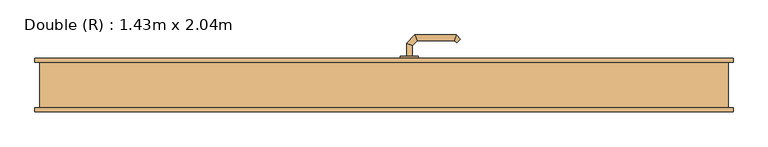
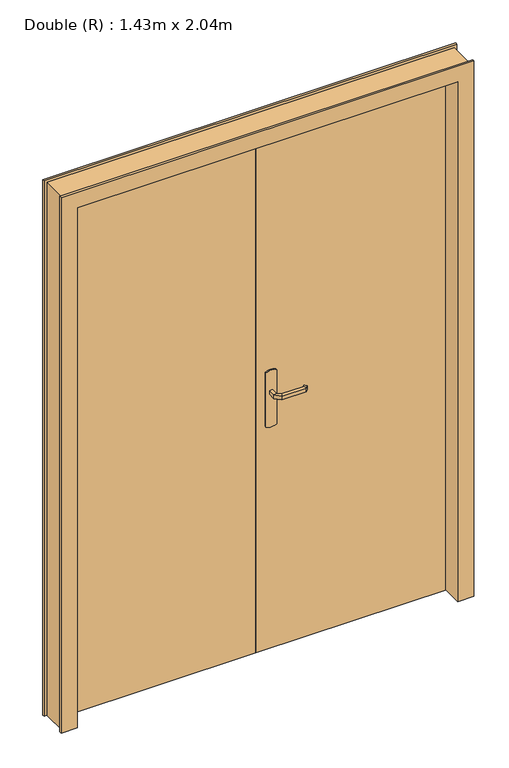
"""IFC4 building model written with IfcOpenShell, lengths in millimetres: door geometry, Double (R) : 1.43m x 2.04m."""

from ifc_helpers import new_model, si_unit, point, frame, frame_2d, origin, origin_with_axes, place, context, project, spatial, polyline, circle_curve, ellipse_curve, trimmed, segment, composite_curve, outline, extrude, faceted_brep, source, transform, mapped, element, save
from ifc_brep_helpers import plane_surface, cylinder_surface, advanced_brep


def double_r_1_43m_x_2_04m_c23811d4(model_context):
    return source(origin(), model_context, "Body", "SolidModel", [
        advanced_brep(
        [(61.0, 13.0, 993.0), (49.0, 13.0, 993.0), (49.0, 13.0, 1007.0), (61.0, 13.0, 1007.0), (61.0, -9.4852045, 1007.0), (61.0, -9.4852045, 993.0), (49.0, -14.4557673, 1007.0), (49.0, -14.4557673, 993.0), (72.4852814, -20.9704859, 1007.0), (72.4852814, -20.9704859, 993.0), (67.5147186, -32.9704859, 1007.0), (67.5147186, -32.9704859, 993.0), (152.5605023, -20.9704859, 1007.0), (152.5605023, -20.9704859, 993.0), (157.531065, -32.9704859, 1007.0), (157.531065, -32.9704859, 993.0), (157.8742108, -15.6567774, 993.0), (157.8742108, -15.6567774, 1007.0), (166.3594922, -24.1420588, 1007.0), (166.3594922, -24.1420588, 993.0)],
        [
            (0, 1, circle_curve(frame((55.0, 13.0, 1013.0457722), z_axis=(0.0, 1.0, 0.0), x_axis=(-1.0, 0.0, 0.0)), 20.9244589)),
            (1, 2),
            (2, 3, circle_curve(frame((55.0, 13.0, 986.9542278), z_axis=(0.0, 1.0, 0.0), x_axis=(-1.0, 0.0, 0.0)), 20.9244589)),
            (3, 0),
            (3, 4),
            (4, 5),
            (5, 0),
            (2, 6),
            (6, 4, ellipse_curve(frame((55.0, -11.9704859, 986.9542278), z_axis=(-0.38268343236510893, 0.9238795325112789, 0.0), x_axis=(0.9238795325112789, 0.3826834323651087, 0.0)), 22.6484711, 20.9244589)),
            (1, 7),
            (7, 6),
            (5, 7, ellipse_curve(frame((55.0, -11.9704859, 1013.0457722), z_axis=(-0.38268343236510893, 0.9238795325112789, 0.0), x_axis=(0.9238795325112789, 0.3826834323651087, 0.0)), 22.6484711, 20.9244589)),
            (4, 8),
            (8, 9),
            (9, 5),
            (6, 10),
            (10, 8, ellipse_curve(frame((70.0, -26.9704859, 986.9542278), z_axis=(-0.9238795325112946, 0.38268343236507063, 0.0), x_axis=(0.3826834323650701, 0.9238795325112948, 0.0)), 22.6484711, 20.9244589)),
            (7, 11),
            (11, 10),
            (9, 11, ellipse_curve(frame((70.0, -26.9704859, 1013.0457722), z_axis=(-0.9238795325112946, 0.38268343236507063, 0.0), x_axis=(0.3826834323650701, 0.9238795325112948, 0.0)), 22.6484711, 20.9244589)),
            (8, 12),
            (12, 13),
            (13, 9),
            (10, 14),
            (14, 12, ellipse_curve(frame((155.0457837, -26.9704859, 986.9542278), z_axis=(-0.9238795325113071, -0.38268343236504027, 0.0), x_axis=(-0.38268343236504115, 0.9238795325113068, 0.0)), 22.6484711, 20.9244589)),
            (11, 15),
            (15, 14),
            (13, 15, ellipse_curve(frame((155.0457837, -26.9704859, 1013.0457722), z_axis=(-0.9238795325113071, -0.38268343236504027, 0.0), x_axis=(-0.38268343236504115, 0.9238795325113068, 0.0)), 22.6484711, 20.9244589)),
            (16, 17),
            (17, 18, circle_curve(frame((162.1168515, -19.8994181, 986.9542278), z_axis=(0.7071067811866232, 0.7071067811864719, 0.0), x_axis=(0.7071067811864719, -0.7071067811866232, 0.0)), 20.9244589)),
            (18, 19),
            (19, 16, circle_curve(frame((162.1168515, -19.8994181, 1013.0457722), z_axis=(0.7071067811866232, 0.7071067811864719, 0.0), x_axis=(0.7071067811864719, -0.7071067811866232, 0.0)), 20.9244589)),
            (12, 17),
            (16, 13),
            (14, 18),
            (15, 19),
        ],
        [
            plane_surface(frame((45.7804555, 13.0, 1000.0), z_axis=(0.0, 1.0, 0.0), x_axis=(0.0, 0.0, 1.0))),
            plane_surface(frame((61.0, 13.0, 993.0), z_axis=(1.0, 0.0, 0.0), x_axis=(0.0, -1.0, 0.0))),
            cylinder_surface(frame((55.0, 13.0, 986.9542278), z_axis=(0.0, 1.0, 0.0), x_axis=(-1.0, 0.0, 0.0)), 20.9244589),
            plane_surface(frame((49.0, 13.0, 1007.0), z_axis=(-1.0, 0.0, 0.0), x_axis=(0.0, -1.0, 0.0))),
            cylinder_surface(frame((55.0, 13.0, 1013.0457722), z_axis=(0.0, 1.0, 0.0), x_axis=(-1.0, 0.0, 0.0)), 20.9244589),
            plane_surface(frame((61.0, -9.4852045, 993.0), z_axis=(0.707106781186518, 0.707106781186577, 0.0), x_axis=(0.707106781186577, -0.707106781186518, 0.0))),
            cylinder_surface(frame((55.0, -11.9704859, 986.9542278), z_axis=(-0.7071067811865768, 0.7071067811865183, 0.0), x_axis=(-0.7071067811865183, -0.7071067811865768, 0.0)), 20.9244589),
            plane_surface(frame((49.0, -14.4557673, 1007.0), z_axis=(-0.7071067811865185, -0.7071067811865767, 0.0), x_axis=(0.7071067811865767, -0.7071067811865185, 0.0))),
            cylinder_surface(frame((55.0, -11.9704859, 1013.0457722), z_axis=(-0.7071067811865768, 0.7071067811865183, 0.0), x_axis=(-0.7071067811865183, -0.7071067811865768, 0.0)), 20.9244589),
            plane_surface(frame((72.4852814, -20.9704859, 993.0), z_axis=(0.0, 1.0, 0.0), x_axis=(1.0, 0.0, 0.0))),
            cylinder_surface(frame((70.0, -26.9704859, 986.9542278), z_axis=(-1.0, 0.0, 0.0), x_axis=(0.0, -1.0, 0.0)), 20.9244589),
            plane_surface(frame((67.5147186, -32.9704859, 1007.0), z_axis=(0.0, -1.0, 0.0), x_axis=(1.0, 0.0, 0.0))),
            cylinder_surface(frame((70.0, -26.9704859, 1013.0457722), z_axis=(-1.0, 0.0, 0.0), x_axis=(0.0, -1.0, 0.0)), 20.9244589),
            plane_surface(frame((162.1168515, -19.8994181, 990.7804555), z_axis=(0.7071067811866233, 0.7071067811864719, 0.0), x_axis=(0.7071067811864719, -0.7071067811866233, 0.0))),
            plane_surface(frame((152.5605023, -20.9704859, 993.0), z_axis=(-0.707106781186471, 0.7071067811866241, 0.0), x_axis=(0.7071067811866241, 0.707106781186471, 0.0))),
            cylinder_surface(frame((155.0457837, -26.9704859, 986.9542278), z_axis=(-0.7071067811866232, -0.7071067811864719, 0.0), x_axis=(0.7071067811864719, -0.7071067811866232, 0.0)), 20.9244589),
            plane_surface(frame((157.531065, -32.9704859, 1007.0), z_axis=(0.7071067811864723, -0.7071067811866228, 0.0), x_axis=(0.7071067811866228, 0.7071067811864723, 0.0))),
            cylinder_surface(frame((155.0457837, -26.9704859, 1013.0457722), z_axis=(-0.7071067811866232, -0.7071067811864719, 0.0), x_axis=(0.7071067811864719, -0.7071067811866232, 0.0)), 20.9244589),
        ],
        [
            (0, [[1, 2, 3, 4]]),
            (1, [[5, 6, 7, -4]]),
            (2, [[8, 9, -5, -3]]),
            (3, [[10, 11, -8, -2]]),
            (4, [[-7, 12, -10, -1]]),
            (5, [[13, 14, 15, -6]]),
            (6, [[16, 17, -13, -9]]),
            (7, [[18, 19, -16, -11]]),
            (8, [[-15, 20, -18, -12]]),
            (9, [[21, 22, 23, -14]]),
            (10, [[24, 25, -21, -17]]),
            (11, [[26, 27, -24, -19]]),
            (12, [[-23, 28, -26, -20]]),
            (13, [[29, 30, 31, 32]]),
            (14, [[33, -29, 34, -22]]),
            (15, [[35, -30, -33, -25]]),
            (16, [[36, -31, -35, -27]]),
            (17, [[-34, -32, -36, -28]]),
        ],
    ),
        advanced_brep(
        [(49.0, 63.0, 1007.0), (49.0, 63.0, 993.0), (61.0, 63.0, 993.0), (61.0, 63.0, 1007.0), (61.0, 85.680388, 1007.0), (49.0, 90.6509507, 1007.0), (61.0, 85.680388, 993.0), (49.0, 90.6509507, 993.0), (72.3477727, 97.0281607, 1007.0), (67.37721, 109.0281607, 1007.0), (72.3477727, 97.0281607, 993.0), (67.37721, 109.0281607, 993.0), (152.5333592, 97.0281607, 1007.0), (157.503922, 109.0281607, 1007.0), (152.5333592, 97.0281607, 993.0), (157.503922, 109.0281607, 993.0), (166.3323491, 100.1997336, 1007.0), (157.8470677, 91.7144522, 1007.0), (157.8470677, 91.7144522, 993.0), (166.3323491, 100.1997336, 993.0)],
        [
            (0, 1),
            (1, 2, circle_curve(frame((55.0, 63.0, 1013.0457722), z_axis=(0.0, -1.0, 0.0), x_axis=(1.0, 0.0, 0.0)), 20.9244589)),
            (2, 3),
            (3, 0, circle_curve(frame((55.0, 63.0, 986.9542278), z_axis=(0.0, -1.0, 0.0), x_axis=(1.0, 0.0, 0.0)), 20.9244589)),
            (3, 4),
            (4, 5, ellipse_curve(frame((55.0, 88.1656693, 986.9542278), z_axis=(-0.3826834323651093, -0.9238795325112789, 0.0), x_axis=(0.9238795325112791, -0.38268343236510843, 0.0)), 22.6484711, 20.9244589)),
            (5, 0),
            (2, 6),
            (6, 4),
            (1, 7),
            (7, 6, ellipse_curve(frame((55.0, 88.1656693, 1013.0457722), z_axis=(-0.3826834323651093, -0.9238795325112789, 0.0), x_axis=(0.9238795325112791, -0.38268343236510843, 0.0)), 22.6484711, 20.9244589)),
            (5, 7),
            (4, 8),
            (8, 9, ellipse_curve(frame((69.8624914, 103.0281607, 986.9542278), z_axis=(-0.9238795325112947, -0.38268343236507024, 0.0), x_axis=(0.3826834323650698, -0.9238795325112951, 0.0)), 22.6484711, 20.9244589)),
            (9, 5),
            (6, 10),
            (10, 8),
            (7, 11),
            (11, 10, ellipse_curve(frame((69.8624914, 103.0281607, 1013.0457722), z_axis=(-0.9238795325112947, -0.38268343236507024, 0.0), x_axis=(0.3826834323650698, -0.9238795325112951, 0.0)), 22.6484711, 20.9244589)),
            (9, 11),
            (8, 12),
            (12, 13, ellipse_curve(frame((155.0186406, 103.0281607, 986.9542278), z_axis=(-0.9238795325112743, 0.3826834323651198, 0.0), x_axis=(-0.38268343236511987, -0.9238795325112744, 0.0)), 22.6484711, 20.9244589)),
            (13, 9),
            (10, 14),
            (14, 12),
            (11, 15),
            (15, 14, ellipse_curve(frame((155.0186406, 103.0281607, 1013.0457722), z_axis=(-0.9238795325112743, 0.3826834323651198, 0.0), x_axis=(-0.38268343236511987, -0.9238795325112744, 0.0)), 22.6484711, 20.9244589)),
            (13, 15),
            (16, 17, circle_curve(frame((162.0897084, 95.9570929, 986.9542278), z_axis=(0.7071067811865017, -0.7071067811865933, 0.0), x_axis=(-0.7071067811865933, -0.7071067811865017, 0.0)), 20.9244589)),
            (17, 18),
            (18, 19, circle_curve(frame((162.0897084, 95.9570929, 1013.0457722), z_axis=(0.7071067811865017, -0.7071067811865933, 0.0), x_axis=(-0.7071067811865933, -0.7071067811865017, 0.0)), 20.9244589)),
            (19, 16),
            (12, 17),
            (16, 13),
            (14, 18),
            (15, 19),
        ],
        [
            plane_surface(frame((45.7804555, 63.0, 1000.0), z_axis=(0.0, -1.0, 0.0), x_axis=(0.0, 0.0, -1.0))),
            cylinder_surface(frame((55.0, 63.0, 986.9542278), z_axis=(0.0, -1.0, 0.0), x_axis=(1.0, 0.0, 0.0)), 20.9244589),
            plane_surface(frame((61.0, 63.0, 1007.0), z_axis=(1.0, 0.0, 0.0), x_axis=(0.0, 1.0, 0.0))),
            cylinder_surface(frame((55.0, 63.0, 1013.0457722), z_axis=(0.0, -1.0, 0.0), x_axis=(1.0, 0.0, 0.0)), 20.9244589),
            plane_surface(frame((49.0, 63.0, 993.0), z_axis=(-1.0, 0.0, 0.0), x_axis=(0.0, 1.0, 0.0))),
            cylinder_surface(frame((55.0, 88.1656693, 986.9542278), z_axis=(-0.7071067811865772, -0.7071067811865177, 0.0), x_axis=(0.7071067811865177, -0.7071067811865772, 0.0)), 20.9244589),
            plane_surface(frame((61.0, 85.680388, 1007.0), z_axis=(0.7071067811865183, -0.7071067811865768, 0.0), x_axis=(0.7071067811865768, 0.7071067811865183, 0.0))),
            cylinder_surface(frame((55.0, 88.1656693, 1013.0457722), z_axis=(-0.7071067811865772, -0.7071067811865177, 0.0), x_axis=(0.7071067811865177, -0.7071067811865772, 0.0)), 20.9244589),
            plane_surface(frame((49.0, 90.6509507, 993.0), z_axis=(-0.707106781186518, 0.707106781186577, 0.0), x_axis=(0.707106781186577, 0.707106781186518, 0.0))),
            cylinder_surface(frame((69.8624914, 103.0281607, 986.9542278), z_axis=(-1.0, 0.0, 0.0), x_axis=(0.0, -1.0, 0.0)), 20.9244589),
            plane_surface(frame((72.3477727, 97.0281607, 1007.0), z_axis=(0.0, -1.0, 0.0), x_axis=(1.0, 0.0, 0.0))),
            cylinder_surface(frame((69.8624914, 103.0281607, 1013.0457722), z_axis=(-1.0, 0.0, 0.0), x_axis=(0.0, -1.0, 0.0)), 20.9244589),
            plane_surface(frame((67.37721, 109.0281607, 993.0), z_axis=(0.0, 1.0, 0.0), x_axis=(1.0, 0.0, 0.0))),
            plane_surface(frame((162.0897084, 95.9570929, 1009.2195445), z_axis=(0.7071067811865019, -0.7071067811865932, 0.0), x_axis=(0.7071067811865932, 0.7071067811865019, 0.0))),
            cylinder_surface(frame((155.0186406, 103.0281607, 986.9542278), z_axis=(-0.7071067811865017, 0.7071067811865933, 0.0), x_axis=(-0.7071067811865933, -0.7071067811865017, 0.0)), 20.9244589),
            plane_surface(frame((152.5333592, 97.0281607, 1007.0), z_axis=(-0.7071067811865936, -0.7071067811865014, 0.0), x_axis=(0.7071067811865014, -0.7071067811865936, 0.0))),
            cylinder_surface(frame((155.0186406, 103.0281607, 1013.0457722), z_axis=(-0.7071067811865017, 0.7071067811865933, 0.0), x_axis=(-0.7071067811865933, -0.7071067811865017, 0.0)), 20.9244589),
            plane_surface(frame((157.503922, 109.0281607, 993.0), z_axis=(0.707106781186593, 0.7071067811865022, 0.0), x_axis=(0.7071067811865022, -0.707106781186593, 0.0))),
        ],
        [
            (0, [[1, 2, 3, 4]]),
            (1, [[5, 6, 7, -4]]),
            (2, [[8, 9, -5, -3]]),
            (3, [[10, 11, -8, -2]]),
            (4, [[-7, 12, -10, -1]]),
            (5, [[13, 14, 15, -6]]),
            (6, [[16, 17, -13, -9]]),
            (7, [[18, 19, -16, -11]]),
            (8, [[-15, 20, -18, -12]]),
            (9, [[21, 22, 23, -14]]),
            (10, [[24, 25, -21, -17]]),
            (11, [[26, 27, -24, -19]]),
            (12, [[-23, 28, -26, -20]]),
            (13, [[29, 30, 31, 32]]),
            (14, [[33, -29, 34, -22]]),
            (15, [[35, -30, -33, -25]]),
            (16, [[36, -31, -35, -27]]),
            (17, [[-34, -32, -36, -28]]),
        ],
    ),
        extrude(outline(composite_curve([segment(trimmed(circle_curve(frame_2d((1045.3589838, 55.0)), 40.0), [point((1080.0, 75.0))], [point((1080.0, 35.0))], False, "CARTESIAN"), True, "CONTINUOUS"), segment(polyline([(1080.0, 35.0), (870.0, 35.0)]), True, "CONTINUOUS"), segment(trimmed(circle_curve(frame_2d((904.6410162, 55.0)), 40.0), [point((870.0, 35.0))], [point((870.0, 75.0))], False, "CARTESIAN"), True, "CONTINUOUS"), segment(polyline([(870.0, 75.0), (1080.0, 75.0)]), True, "CONTINUOUS")], self_intersect=False)), frame((0.0, 13.0, 0.0), z_axis=(0.0, 1.0, 0.0), x_axis=(0.0, 0.0, 1.0)), (0.0, 0.0, 1.0), 5.0),
        extrude(outline(composite_curve([segment(trimmed(circle_curve(frame_2d((904.6410162, 55.0)), 40.0), [point((870.0, 35.0))], [point((870.0, 75.0))], False, "CARTESIAN"), True, "CONTINUOUS"), segment(polyline([(870.0, 75.0), (1080.0, 75.0)]), True, "CONTINUOUS"), segment(trimmed(circle_curve(frame_2d((1045.3589838, 55.0)), 40.0), [point((1080.0, 75.0))], [point((1080.0, 35.0))], False, "CARTESIAN"), True, "CONTINUOUS"), segment(polyline([(1080.0, 35.0), (870.0, 35.0)]), True, "CONTINUOUS")], self_intersect=False)), frame((0.0, 58.0, 0.0), z_axis=(0.0, 1.0, 0.0), x_axis=(0.0, 0.0, 1.0)), (0.0, 0.0, 1.0), 5.0),
        faceted_brep([(-750.0, 50.0, 0.0), (-760.0, 50.0, 0.0), (-760.0, 58.0, 0.0), (-715.0, 58.0, 0.0), (-715.0, 18.0, 0.0), (-700.0, 18.0, 0.0), (-700.0, -58.0, 0.0), (-760.0, -58.0, 0.0), (-760.0, -50.0, 0.0), (-750.0, -50.0, 0.0), (-750.0, -50.0, 2075.0), (-750.0, 50.0, 2075.0), (-760.0, -50.0, 2085.0), (760.0, -50.0, 2085.0), (760.0, -50.0, 0.0), (750.0, -50.0, 0.0), (750.0, -50.0, 2075.0), (-760.0, -58.0, 2085.0), (-700.0, -58.0, 2025.0), (700.0, -58.0, 2025.0), (700.0, -58.0, 0.0), (760.0, -58.0, 0.0), (760.0, -58.0, 2085.0), (-700.0, 18.0, 2025.0), (-715.0, 18.0, 2040.0), (715.0, 18.0, 2040.0), (715.0, 18.0, 0.0), (700.0, 18.0, 0.0), (700.0, 18.0, 2025.0), (-715.0, 58.0, 2040.0), (-760.0, 58.0, 2085.0), (760.0, 58.0, 2085.0), (760.0, 58.0, 0.0), (715.0, 58.0, 0.0), (715.0, 58.0, 2040.0), (-760.0, 50.0, 2085.0), (750.0, 50.0, 2075.0), (750.0, 50.0, 0.0), (760.0, 50.0, 0.0), (760.0, 50.0, 2085.0)], [[[0, 1, 2, 3, 4, 5, 6, 7, 8, 9]], [[9, 10, 11, 0]], [[8, 12, 13, 14, 15, 16, 10, 9]], [[7, 17, 12, 8]], [[6, 18, 19, 20, 21, 22, 17, 7]], [[5, 23, 18, 6]], [[4, 24, 25, 26, 27, 28, 23, 5]], [[3, 29, 24, 4]], [[2, 30, 31, 32, 33, 34, 29, 3]], [[1, 35, 30, 2]], [[0, 11, 36, 37, 38, 39, 35, 1]], [[16, 15, 37, 36]], [[37, 15, 14, 21, 20, 27, 26, 33, 32, 38]], [[22, 21, 14, 13]], [[28, 27, 20, 19]], [[34, 33, 26, 25]], [[39, 38, 32, 31]], [[10, 16, 36, 11]], [[17, 22, 13, 12]], [[23, 28, 19, 18]], [[29, 34, 25, 24]], [[35, 39, 31, 30]]]),
        extrude(outline(polyline([(715.0, 58.0), (715.0, 18.0), (0.0, 18.0), (0.0, 58.0), (715.0, 58.0)])), origin_with_axes(), (0.0, 0.0, 1.0), 2040.0),
        extrude(outline(polyline([(0.0, 58.0), (0.0, 18.0), (-715.0, 18.0), (-715.0, 58.0), (0.0, 58.0)])), origin_with_axes(), (0.0, 0.0, 1.0), 2040.0),
    ])


if __name__ == "__main__":
    model = new_model("IFC4")
    model_context = context("Model", 3, world=origin())
    ifc_project = project(units=[si_unit("LENGTHUNIT", "METRE", prefix="MILLI")], contexts=[model_context])
    site = spatial("IfcSite", under=ifc_project)
    building = spatial("IfcBuilding", under=site)
    placement = place(None, origin())
    double_r_1_43m_x_2_04m_shape = double_r_1_43m_x_2_04m_c23811d4(model_context)
    element("IfcDoor", 1, ObjectType="Double (R) : 1.43m x 2.04m", at=placement, inside=building, context=model_context, shape_type="MappedRepresentation", body=[
        mapped(double_r_1_43m_x_2_04m_shape, transform((0.0, 0.0, 0.0), x_axis=(1.0, 0.0, 0.0), y_axis=(0.0, 1.0, 0.0), z_axis=(0.0, 0.0, 1.0))),
    ])
    save(model, "model.ifc")
